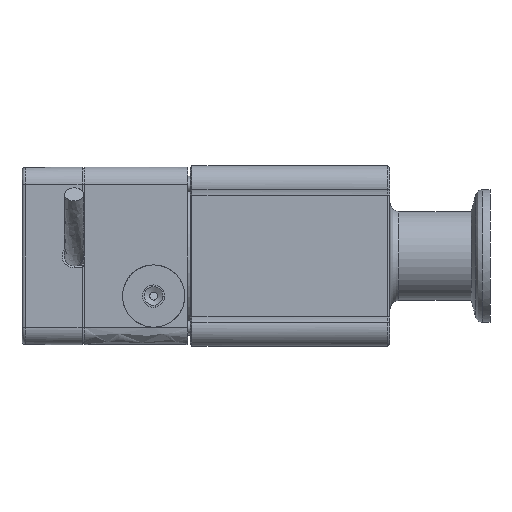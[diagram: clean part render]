
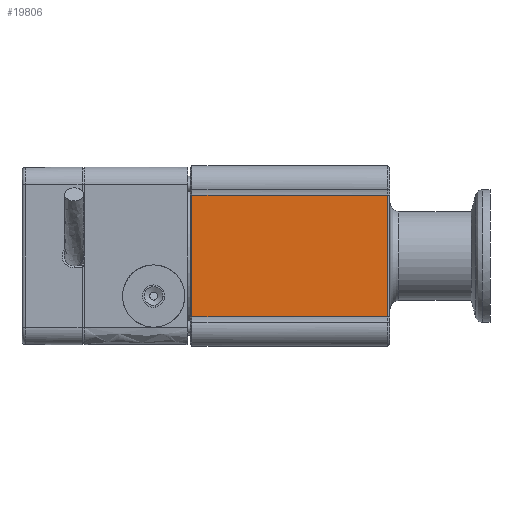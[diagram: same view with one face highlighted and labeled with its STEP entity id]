
A CAD part, left-side view. The second image highlights one B-rep face of the part: STEP entity #19806.
In plain terms, the highlighted free-form (B-spline) face has degree [1, 1] with [2, 2] control points.
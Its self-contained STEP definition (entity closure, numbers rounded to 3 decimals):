
#19740=CARTESIAN_POINT('V32',(-20.,20.,
   13.657));
#19741=VERTEX_POINT('V32',#19740);
#19755=CARTESIAN_POINT('V33',(-20.,64.,
   13.657));
#19756=VERTEX_POINT('V33',#19755);
#19757=CARTESIAN_POINT('E50',(-20.,20.,
   13.657));
#19758=CARTESIAN_POINT('E50',(-20.,64.0,
   13.657));
#19759=B_SPLINE_CURVE_WITH_KNOTS('E50',1,(#19757,#19758),
   .POLYLINE_FORM.,.F.,.U.,(2,2),(2.393,
   36.945),.UNSPECIFIED.);
#19760=EDGE_CURVE('E50',#19741,#19756,#19759,.T.);
#19779=CARTESIAN_POINT('F23',(-20.,18.5,
   -14.422));
#19780=CARTESIAN_POINT('F23',(-20.,18.5,
   14.422));
#19781=CARTESIAN_POINT('F23',(-20.,67.9,
   -14.422));
#19782=CARTESIAN_POINT('F23',(-20.,67.9,
   14.422));
#19783=B_SPLINE_SURFACE_WITH_KNOTS('F23',1,1,((#19779,#19781),(
   #19780,#19782)),.PLANE_SURF.,.F.,.F.,.U.,(2,2),(2,2),(0.0,1.0),
   (0.745,2.458),.UNSPECIFIED.);
#19784=CARTESIAN_POINT('V31',(-20.0,20.,
   -13.657));
#19785=VERTEX_POINT('V31',#19784);
#19786=CARTESIAN_POINT('E49',(-20.,20.,
   -13.657));
#19787=CARTESIAN_POINT('E49',(-20.,20.,
   13.657));
#19788=B_SPLINE_CURVE_WITH_KNOTS('E49',1,(#19786,#19787),
   .POLYLINE_FORM.,.F.,.U.,(2,2),(2.0,40.628),
   .UNSPECIFIED.);
#19789=EDGE_CURVE('E49',#19785,#19741,#19788,.T.);
#19790=ORIENTED_EDGE('E49',*,*,#19789,.F.);
#19791=CARTESIAN_POINT('V34',(-20.,64.,
   -13.657));
#19792=VERTEX_POINT('V34',#19791);
#19793=CARTESIAN_POINT('E52',(-20.0,64.,
   -13.657));
#19794=CARTESIAN_POINT('E52',(-20.0,20.,
   -13.657));
#19795=B_SPLINE_CURVE_WITH_KNOTS('E52',1,(#19793,#19794),
   .POLYLINE_FORM.,.F.,.U.,(2,2),(2.314,
   36.866),.UNSPECIFIED.);
#19796=EDGE_CURVE('E52',#19792,#19785,#19795,.T.);
#19797=ORIENTED_EDGE('E52',*,*,#19796,.F.);
#19798=CARTESIAN_POINT('E51',(-20.,64.,
   13.657));
#19799=CARTESIAN_POINT('E51',(-20.,64.,
   -13.657));
#19800=B_SPLINE_CURVE_WITH_KNOTS('E51',1,(#19798,#19799),
   .POLYLINE_FORM.,.F.,.U.,(2,2),(2.0,50.285),
   .UNSPECIFIED.);
#19801=EDGE_CURVE('E51',#19756,#19792,#19800,.T.);
#19802=ORIENTED_EDGE('E51',*,*,#19801,.F.);
#19803=ORIENTED_EDGE('E50',*,*,#19760,.F.);
#19804=EDGE_LOOP('F23',(#19790,#19797,#19802,#19803));
#19805=FACE_OUTER_BOUND('F23',#19804,.F.);
#19806=ADVANCED_FACE('F23',(#19805),#19783,.T.);
